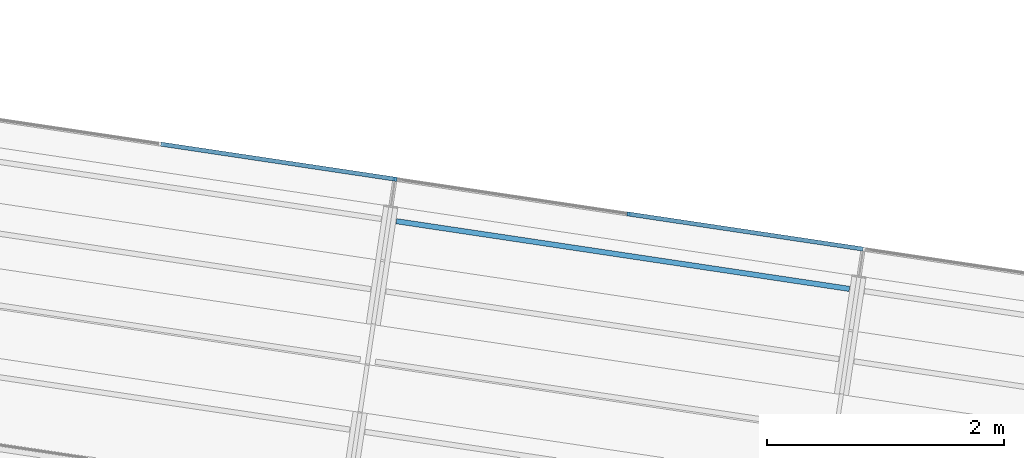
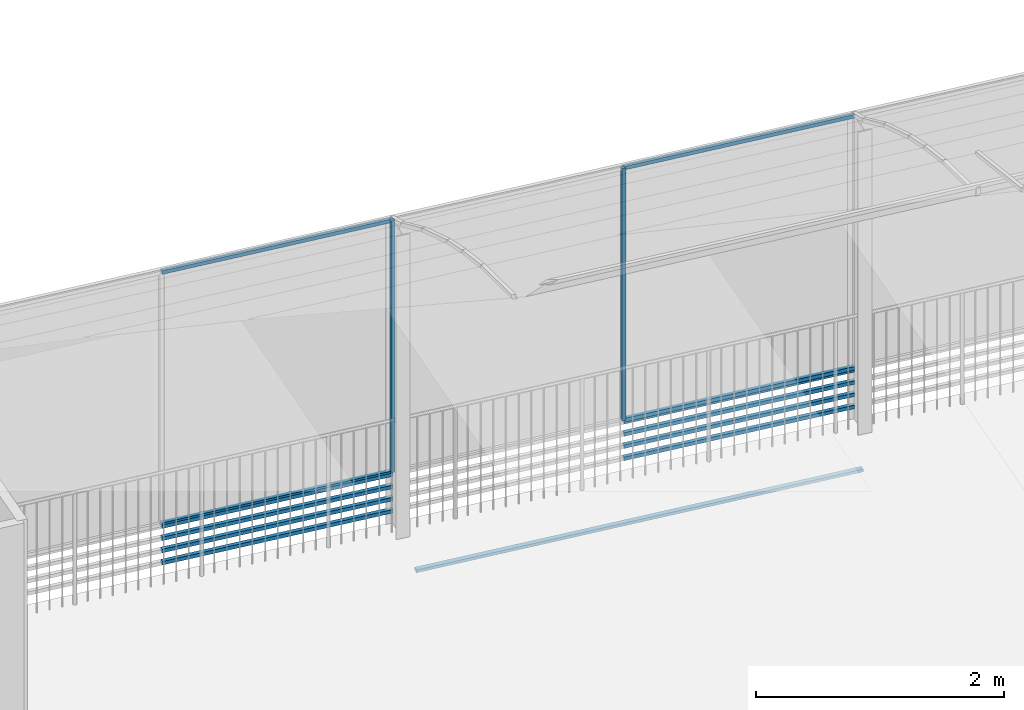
# One storey, part 14 of 34: 16 members, 1 beam.
"""IFC4 building model written with IfcOpenShell, lengths in metres."""

from ifc_helpers import new_model, si_unit, direction, frame, origin_with_axes, place, context, subcontext, project, spatial, polyline, rectangle, outline, extrude, material, material_profile, profile_set, profile_usage, type_object, element, save


model = new_model("IFC4")

# Units and contexts
model_context = context("Model", 3, precision=1e-05, world=origin_with_axes(), true_north=direction((0.0, 1.0)))
body_context = subcontext(model_context, "Body", "Model", "MODEL_VIEW")
ifc_project = project(units=[si_unit("AREAUNIT", "SQUARE_METRE"), si_unit("VOLUMEUNIT", "CUBIC_METRE"), si_unit("LENGTHUNIT", "METRE")], contexts=[model_context])

# Site, building, storey
site_placement = place(None, origin_with_axes())
site = spatial("IfcSite", under=ifc_project, at=site_placement, Name="Lares · Rua das Mercês · artigo 4771")
building_placement = place(site_placement, frame((15.0, 9.7, 14.65), z_axis=(0.0, 0.0, 1.0), x_axis=(0.989015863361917, -0.147809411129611, 0.0)))
building = spatial("IfcBuilding", under=site, at=building_placement, Name="Casa Sobreposta")
storey_placement = place(building_placement, frame((0.0, 0.0, 3.24), z_axis=(0.0, 0.0, 1.0), x_axis=(1.0, 0.0, 0.0)))
storey = spatial("IfcBuildingStorey", under=building, at=storey_placement, Name="01 · Jardim de inverno", Elevation=17.89)

# Members
ifc_material_1 = material(Name="Aço pintado / Stahl lackiert", Category="steel")
ifc_material_profile_1 = material_profile(ifc_material_1, rectangle(XDim=0.035, YDim=0.035))
ifc_profile_set_1 = profile_set([ifc_material_profile_1], Name="R0.035")
ifc_profile_usage_1 = profile_usage(ifc_profile_set_1)
member_type = type_object("IfcMemberType", Name="R0.035 / steel", PredefinedType="NOTDEFINED", material=ifc_profile_set_1)
member_1_placement = place(storey_placement, frame((16.0, 6.4, 0.5), z_axis=(0.0, 0.0, 1.0), x_axis=(1.0, 0.0, 0.0)))
element("IfcMember", 1, at=member_1_placement, inside=storey, type_object=member_type, material=ifc_profile_usage_1, context=body_context, shape_type="SweptSolid", body=[
    extrude(rectangle(XDim=0.035, YDim=0.035), origin_with_axes(), (0.0, 0.0, 1.0), 2.48),
])
ifc_profile_usage_2 = profile_usage(ifc_profile_set_1)
member_2_placement = place(storey_placement, frame((14.0, 6.4, 0.5), z_axis=(1.0, 0.0, 0.0), x_axis=(0.0, -1.0, 0.0)))
element("IfcMember", 2, at=member_2_placement, inside=storey, type_object=member_type, material=ifc_profile_usage_2, Name="Estufa norte 8 · travessa", context=body_context, shape_type="SweptSolid", body=[
    extrude(rectangle(XDim=0.035, YDim=0.035), origin_with_axes(), (0.0, 0.0, 1.0), 2.0),
])
ifc_profile_usage_3 = profile_usage(ifc_profile_set_1)
member_3_placement = place(storey_placement, frame((14.0, 6.4, 2.98), z_axis=(1.0, 0.0, 0.0), x_axis=(0.0, -1.0, 0.0)))
element("IfcMember", 3, at=member_3_placement, inside=storey, type_object=member_type, material=ifc_profile_usage_3, Name="Estufa norte 8 · travessa", context=body_context, shape_type="SweptSolid", body=[
    extrude(rectangle(XDim=0.035, YDim=0.035), origin_with_axes(), (0.0, 0.0, 1.0), 2.0),
])
ifc_profile_usage_4 = profile_usage(ifc_profile_set_1)
member_4_placement = place(storey_placement, frame((14.0, 6.4, 0.12), z_axis=(1.0, 0.0, 0.0), x_axis=(0.0, -1.0, 0.0)))
element("IfcMember", 4, at=member_4_placement, inside=storey, type_object=member_type, material=ifc_profile_usage_4, Name="Entrada de ar norte 8", context=body_context, shape_type="SweptSolid", body=[
    extrude(rectangle(XDim=0.035, YDim=0.035), origin_with_axes(), (0.0, 0.0, 1.0), 2.0),
])
ifc_profile_usage_5 = profile_usage(ifc_profile_set_1)
member_5_placement = place(storey_placement, frame((14.0, 6.4, 0.24), z_axis=(1.0, 0.0, 0.0), x_axis=(0.0, -1.0, 0.0)))
element("IfcMember", 5, at=member_5_placement, inside=storey, type_object=member_type, material=ifc_profile_usage_5, Name="Entrada de ar norte 8", context=body_context, shape_type="SweptSolid", body=[
    extrude(rectangle(XDim=0.035, YDim=0.035), origin_with_axes(), (0.0, 0.0, 1.0), 2.0),
])
ifc_profile_usage_6 = profile_usage(ifc_profile_set_1)
member_6_placement = place(storey_placement, frame((14.0, 6.4, 0.36), z_axis=(1.0, 0.0, 0.0), x_axis=(0.0, -1.0, 0.0)))
element("IfcMember", 6, at=member_6_placement, inside=storey, type_object=member_type, material=ifc_profile_usage_6, Name="Entrada de ar norte 8", context=body_context, shape_type="SweptSolid", body=[
    extrude(rectangle(XDim=0.035, YDim=0.035), origin_with_axes(), (0.0, 0.0, 1.0), 2.0),
])
ifc_profile_usage_7 = profile_usage(ifc_profile_set_1)
member_7_placement = place(storey_placement, frame((14.0, 6.4, 0.48), z_axis=(1.0, 0.0, 0.0), x_axis=(0.0, -1.0, 0.0)))
element("IfcMember", 7, at=member_7_placement, inside=storey, type_object=member_type, material=ifc_profile_usage_7, Name="Entrada de ar norte 8", context=body_context, shape_type="SweptSolid", body=[
    extrude(rectangle(XDim=0.035, YDim=0.035), origin_with_axes(), (0.0, 0.0, 1.0), 2.0),
])
ifc_profile_usage_8 = profile_usage(ifc_profile_set_1)
member_8_placement = place(storey_placement, frame((16.0, 6.4, 0.5), z_axis=(0.0, 0.0, 1.0), x_axis=(1.0, 0.0, 0.0)))
element("IfcMember", 8, at=member_8_placement, inside=storey, type_object=member_type, material=ifc_profile_usage_8, context=body_context, shape_type="SweptSolid", body=[
    extrude(rectangle(XDim=0.035, YDim=0.035), origin_with_axes(), (0.0, 0.0, 1.0), 2.48),
])
ifc_profile_usage_9 = profile_usage(ifc_profile_set_1)
member_9_placement = place(storey_placement, frame((18.0, 6.4, 0.5), z_axis=(0.0, 0.0, 1.0), x_axis=(1.0, 0.0, 0.0)))
element("IfcMember", 9, at=member_9_placement, inside=storey, type_object=member_type, material=ifc_profile_usage_9, context=body_context, shape_type="SweptSolid", body=[
    extrude(rectangle(XDim=0.035, YDim=0.035), origin_with_axes(), (0.0, 0.0, 1.0), 2.48),
])
ifc_profile_usage_10 = profile_usage(ifc_profile_set_1)
member_10_placement = place(storey_placement, frame((18.0, 6.4, 0.5), z_axis=(0.0, 0.0, 1.0), x_axis=(1.0, 0.0, 0.0)))
element("IfcMember", 10, at=member_10_placement, inside=storey, type_object=member_type, material=ifc_profile_usage_10, context=body_context, shape_type="SweptSolid", body=[
    extrude(rectangle(XDim=0.035, YDim=0.035), origin_with_axes(), (0.0, 0.0, 1.0), 2.48),
])
ifc_profile_usage_11 = profile_usage(ifc_profile_set_1)
member_11_placement = place(storey_placement, frame((18.0, 6.4, 0.5), z_axis=(1.0, 0.0, 0.0), x_axis=(0.0, -1.0, 0.0)))
element("IfcMember", 11, at=member_11_placement, inside=storey, type_object=member_type, material=ifc_profile_usage_11, Name="Estufa norte 10 · travessa", context=body_context, shape_type="SweptSolid", body=[
    extrude(rectangle(XDim=0.035, YDim=0.035), origin_with_axes(), (0.0, 0.0, 1.0), 2.0),
])
ifc_profile_usage_12 = profile_usage(ifc_profile_set_1)
member_12_placement = place(storey_placement, frame((18.0, 6.4, 2.98), z_axis=(1.0, 0.0, 0.0), x_axis=(0.0, -1.0, 0.0)))
element("IfcMember", 12, at=member_12_placement, inside=storey, type_object=member_type, material=ifc_profile_usage_12, Name="Estufa norte 10 · travessa", context=body_context, shape_type="SweptSolid", body=[
    extrude(rectangle(XDim=0.035, YDim=0.035), origin_with_axes(), (0.0, 0.0, 1.0), 2.0),
])
ifc_profile_usage_13 = profile_usage(ifc_profile_set_1)
member_13_placement = place(storey_placement, frame((18.0, 6.4, 0.12), z_axis=(1.0, 0.0, 0.0), x_axis=(0.0, -1.0, 0.0)))
element("IfcMember", 13, at=member_13_placement, inside=storey, type_object=member_type, material=ifc_profile_usage_13, Name="Entrada de ar norte 10", context=body_context, shape_type="SweptSolid", body=[
    extrude(rectangle(XDim=0.035, YDim=0.035), origin_with_axes(), (0.0, 0.0, 1.0), 2.0),
])
ifc_profile_usage_14 = profile_usage(ifc_profile_set_1)
member_14_placement = place(storey_placement, frame((18.0, 6.4, 0.24), z_axis=(1.0, 0.0, 0.0), x_axis=(0.0, -1.0, 0.0)))
element("IfcMember", 14, at=member_14_placement, inside=storey, type_object=member_type, material=ifc_profile_usage_14, Name="Entrada de ar norte 10", context=body_context, shape_type="SweptSolid", body=[
    extrude(rectangle(XDim=0.035, YDim=0.035), origin_with_axes(), (0.0, 0.0, 1.0), 2.0),
])
ifc_profile_usage_15 = profile_usage(ifc_profile_set_1)
member_15_placement = place(storey_placement, frame((18.0, 6.4, 0.36), z_axis=(1.0, 0.0, 0.0), x_axis=(0.0, -1.0, 0.0)))
element("IfcMember", 15, at=member_15_placement, inside=storey, type_object=member_type, material=ifc_profile_usage_15, Name="Entrada de ar norte 10", context=body_context, shape_type="SweptSolid", body=[
    extrude(rectangle(XDim=0.035, YDim=0.035), origin_with_axes(), (0.0, 0.0, 1.0), 2.0),
])
ifc_profile_usage_16 = profile_usage(ifc_profile_set_1)
member_16_placement = place(storey_placement, frame((18.0, 6.4, 0.48), z_axis=(1.0, 0.0, 0.0), x_axis=(0.0, -1.0, 0.0)))
element("IfcMember", 16, at=member_16_placement, inside=storey, type_object=member_type, material=ifc_profile_usage_16, Name="Entrada de ar norte 10", context=body_context, shape_type="SweptSolid", body=[
    extrude(rectangle(XDim=0.035, YDim=0.035), origin_with_axes(), (0.0, 0.0, 1.0), 2.0),
])

# Beam
ifc_material_2 = material(Name="Madeira / Bauholz", Category="wood")
ifc_material_profile_2 = material_profile(ifc_material_2, outline(polyline([(0.022225, -0.12), (0.022225, -0.092), (-0.022225, -0.092), (-0.022225, -0.12), (0.022225, -0.12)])))
ifc_material_3 = material(Name="OSB", Category="wood")
ifc_material_profile_3 = material_profile(ifc_material_3, outline(polyline([(0.0047625, -0.092), (0.0047625, 0.092), (-0.0047625, 0.092), (-0.0047625, -0.092), (0.0047625, -0.092)])))
ifc_material_profile_4 = material_profile(ifc_material_2, outline(polyline([(0.022225, 0.092), (0.022225, 0.12), (-0.022225, 0.12), (-0.022225, 0.092), (0.022225, 0.092)])))
ifc_profile_set_2 = profile_set([ifc_material_profile_2, ifc_material_profile_3, ifc_material_profile_4], Name="TJI240 · madeira / OSB")
ifc_profile_usage_17 = profile_usage(ifc_profile_set_2)
beam_placement = place(storey_placement, frame((16.065, 6.05, -0.152), z_axis=(1.0, 0.0, 0.0), x_axis=(0.0, 1.0, 0.0)))
element("IfcBeam", 17, at=beam_placement, inside=storey, material=ifc_profile_usage_17, Name="TJI240 · 16.065 / 6.05", context=body_context, shape_type="SweptSolid", body=[
    extrude(outline(polyline([(0.022225, -0.12), (0.022225, -0.092), (-0.022225, -0.092), (-0.022225, -0.12), (0.022225, -0.12)])), origin_with_axes(), (0.0, 0.0, 1.0), 3.87),
    extrude(outline(polyline([(0.022225, -0.12), (0.022225, -0.092), (-0.022225, -0.092), (-0.022225, -0.12), (0.022225, -0.12)])), origin_with_axes(), (0.0, 0.0, 1.0), 3.87),
    extrude(outline(polyline([(0.022225, -0.12), (0.022225, -0.092), (-0.022225, -0.092), (-0.022225, -0.12), (0.022225, -0.12)])), origin_with_axes(), (0.0, 0.0, 1.0), 3.87),
])

save(model, "model.ifc")
